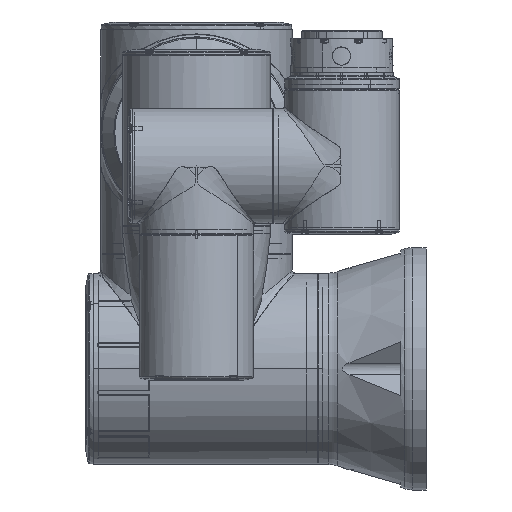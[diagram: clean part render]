
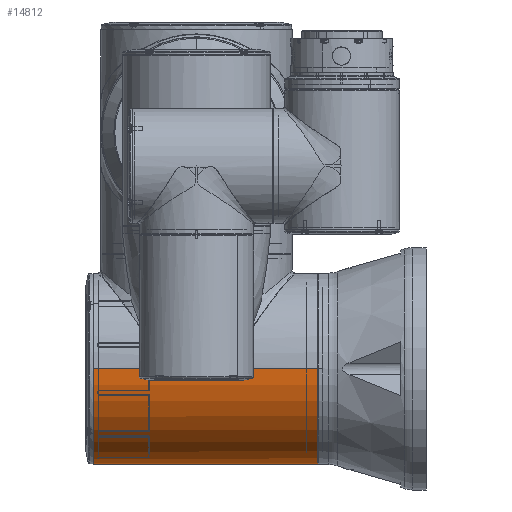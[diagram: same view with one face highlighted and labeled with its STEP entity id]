
A CAD part, left-side view. The second image highlights one B-rep face of the part: STEP entity #14812.
In plain terms, the highlighted cylindrical face has radius 75 mm (diameter 150 mm), a partial arc.
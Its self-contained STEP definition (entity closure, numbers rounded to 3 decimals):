
#824 = EDGE_CURVE ( 'NONE', #92564, #9737, #58804, .T. ) ;
#2642 = VECTOR ( 'NONE', #68037, 1000. ) ;
#3534 = CARTESIAN_POINT ( 'NONE',  ( -0.75, 55.9, 74.996 ) ) ;
#5095 = CARTESIAN_POINT ( 'NONE',  ( 75., -120., 0. ) ) ;
#6234 = CARTESIAN_POINT ( 'NONE',  ( 0.75, 52.649, 74.996 ) ) ;
#9319 = DIRECTION ( 'NONE',  ( 0., 1., 0. ) ) ;
#9537 = ORIENTED_EDGE ( 'NONE', *, *, #70646, .T. ) ;
#9737 = VERTEX_POINT ( 'NONE', #46086 ) ;
#13264 = VERTEX_POINT ( 'NONE', #3534 ) ;
#13957 = CARTESIAN_POINT ( 'NONE',  ( -75., -39., 0. ) ) ;
#14060 = CARTESIAN_POINT ( 'NONE',  ( 0.655, 52.371, 74.997 ) ) ;
#14812 = ADVANCED_FACE ( 'NONE', ( #24502 ), #71904, .T. ) ;
#15790 = ORIENTED_EDGE ( 'NONE', *, *, #20952, .T. ) ;
#16301 = CARTESIAN_POINT ( 'NONE',  ( -0.379, 52.095, 74.999 ) ) ;
#18171 = VECTOR ( 'NONE', #65611, 1000. ) ;
#18264 = CIRCLE ( 'NONE', #92276, 75. ) ;
#19200 = VERTEX_POINT ( 'NONE', #81148 ) ;
#19365 = CIRCLE ( 'NONE', #77875, 75. ) ;
#20288 = EDGE_CURVE ( 'NONE', #13264, #100925, #72900, .T. ) ;
#20931 = DIRECTION ( 'NONE',  ( 1., 0., 0. ) ) ;
#20952 = EDGE_CURVE ( 'NONE', #41797, #85383, #37617, .T. ) ;
#20969 = LINE ( 'NONE', #5095, #90368 ) ;
#21540 = CARTESIAN_POINT ( 'NONE',  ( 0., 52., 75. ) ) ;
#21871 = CARTESIAN_POINT ( 'NONE',  ( 0.195, 52.019, 75. ) ) ;
#22190 = EDGE_CURVE ( 'NONE', #92564, #37421, #78035, .T. ) ;
#22926 = ORIENTED_EDGE ( 'NONE', *, *, #824, .F. ) ;
#23127 = CARTESIAN_POINT ( 'NONE',  ( -0.195, 52.019, 75. ) ) ;
#24502 = FACE_OUTER_BOUND ( 'NONE', #39895, .T. ) ;
#26332 = DIRECTION ( 'NONE',  ( 0., -1., 0. ) ) ;
#26744 = ORIENTED_EDGE ( 'NONE', *, *, #97505, .F. ) ;
#29258 = VERTEX_POINT ( 'NONE', #13957 ) ;
#30366 = CARTESIAN_POINT ( 'NONE',  ( 0.731, 52.555, 74.996 ) ) ;
#31174 = VERTEX_POINT ( 'NONE', #76213 ) ;
#33457 = DIRECTION ( 'NONE',  ( 0., 0., 1. ) ) ;
#35940 = B_SPLINE_CURVE_WITH_KNOTS ( 'NONE', 3,
 ( #83667, #63216, #23127, #16301, #94206, #47568, #63545, #69696, #62546, #78180 ),
 .UNSPECIFIED., .F., .F.,
 ( 4, 2, 2, 2, 4 ),
 ( 0., 0.25, 0.5, 0.75, 1. ),
 .UNSPECIFIED. ) ;
#36731 = CARTESIAN_POINT ( 'NONE',  ( 75., -120., 0. ) ) ;
#37421 = VERTEX_POINT ( 'NONE', #56134 ) ;
#37617 = LINE ( 'NONE', #36731, #18171 ) ;
#39895 = EDGE_LOOP ( 'NONE', ( #76407, #41582, #9537, #15790, #73732, #22926, #59816, #74764, #55164, #26744, #91157 ) ) ;
#41582 = ORIENTED_EDGE ( 'NONE', *, *, #62773, .T. ) ;
#41797 = VERTEX_POINT ( 'NONE', #100451 ) ;
#42438 = LINE ( 'NONE', #48450, #57061 ) ;
#42834 = DIRECTION ( 'NONE',  ( 0., 1., 0. ) ) ;
#44059 = CARTESIAN_POINT ( 'NONE',  ( 0., -120., 0. ) ) ;
#44157 = CARTESIAN_POINT ( 'NONE',  ( 75., 55.9, 0. ) ) ;
#46086 = CARTESIAN_POINT ( 'NONE',  ( 0.75, 55.9, 74.996 ) ) ;
#47387 = CARTESIAN_POINT ( 'NONE',  ( 0., 55.9, 0. ) ) ;
#47568 = CARTESIAN_POINT ( 'NONE',  ( -0.599, 52.289, 74.998 ) ) ;
#47856 = VECTOR ( 'NONE', #54310, 1000. ) ;
#48450 = CARTESIAN_POINT ( 'NONE',  ( -75., -120., 0. ) ) ;
#48761 = CARTESIAN_POINT ( 'NONE',  ( 0., 55.9, 0. ) ) ;
#50079 = LINE ( 'NONE', #82671, #2642 ) ;
#52798 = CARTESIAN_POINT ( 'NONE',  ( 0.6, 52.289, 74.998 ) ) ;
#54310 = DIRECTION ( 'NONE',  ( 0., 1., 0. ) ) ;
#55048 = EDGE_CURVE ( 'NONE', #37421, #100925, #35940, .T. ) ;
#55164 = ORIENTED_EDGE ( 'NONE', *, *, #20288, .F. ) ;
#55440 = CARTESIAN_POINT ( 'NONE',  ( 75., -119.6, 0. ) ) ;
#55924 = DIRECTION ( 'NONE',  ( 0., 1., 0. ) ) ;
#56134 = CARTESIAN_POINT ( 'NONE',  ( 0., 52., 75. ) ) ;
#56218 = DIRECTION ( 'NONE',  ( 0., 0., 1. ) ) ;
#57061 = VECTOR ( 'NONE', #64098, 1000. ) ;
#58796 = EDGE_CURVE ( 'NONE', #9737, #85383, #19365, .T. ) ;
#58804 = LINE ( 'NONE', #76113, #47856 ) ;
#59270 = CIRCLE ( 'NONE', #79981, 75. ) ;
#59816 = ORIENTED_EDGE ( 'NONE', *, *, #22190, .T. ) ;
#60299 = CARTESIAN_POINT ( 'NONE',  ( 0.099, 52., 75. ) ) ;
#60731 = CARTESIAN_POINT ( 'NONE',  ( 0.75, 52.75, 74.996 ) ) ;
#61328 = VERTEX_POINT ( 'NONE', #55440 ) ;
#61641 = CARTESIAN_POINT ( 'NONE',  ( 0.461, 52.15, 74.999 ) ) ;
#62546 = CARTESIAN_POINT ( 'NONE',  ( -0.75, 52.65, 74.996 ) ) ;
#62773 = EDGE_CURVE ( 'NONE', #19200, #61328, #59270, .T. ) ;
#63153 = VECTOR ( 'NONE', #26332, 1000. ) ;
#63216 = CARTESIAN_POINT ( 'NONE',  ( -0.099, 52., 75. ) ) ;
#63545 = CARTESIAN_POINT ( 'NONE',  ( -0.654, 52.37, 74.997 ) ) ;
#64098 = DIRECTION ( 'NONE',  ( 0., 1., 0. ) ) ;
#64845 = AXIS2_PLACEMENT_3D ( 'NONE', #44059, #98821, #20931 ) ;
#65611 = DIRECTION ( 'NONE',  ( 0., 1., 0. ) ) ;
#66071 = CARTESIAN_POINT ( 'NONE',  ( -0.75, -120., 74.996 ) ) ;
#68037 = DIRECTION ( 'NONE',  ( 0., 1., 0. ) ) ;
#68528 = DIRECTION ( 'NONE',  ( -1., 0., 0. ) ) ;
#69696 = CARTESIAN_POINT ( 'NONE',  ( -0.73, 52.554, 74.996 ) ) ;
#70646 = EDGE_CURVE ( 'NONE', #61328, #41797, #20969, .T. ) ;
#71904 = CYLINDRICAL_SURFACE ( 'NONE', #64845, 75. ) ;
#72900 = LINE ( 'NONE', #66071, #63153 ) ;
#73732 = ORIENTED_EDGE ( 'NONE', *, *, #58796, .F. ) ;
#74764 = ORIENTED_EDGE ( 'NONE', *, *, #55048, .T. ) ;
#75733 = EDGE_CURVE ( 'NONE', #19200, #29258, #42438, .T. ) ;
#76113 = CARTESIAN_POINT ( 'NONE',  ( 0.75, -120., 74.996 ) ) ;
#76213 = CARTESIAN_POINT ( 'NONE',  ( -75., 55.9, 0. ) ) ;
#76407 = ORIENTED_EDGE ( 'NONE', *, *, #75733, .F. ) ;
#77875 = AXIS2_PLACEMENT_3D ( 'NONE', #47387, #9319, #56218 ) ;
#78035 = B_SPLINE_CURVE_WITH_KNOTS ( 'NONE', 3,
 ( #99772, #6234, #30366, #14060, #52798, #61641, #91271, #21871, #60299, #21540 ),
 .UNSPECIFIED., .F., .F.,
 ( 4, 2, 2, 2, 4 ),
 ( 0., 0.25, 0.5, 0.75, 1. ),
 .UNSPECIFIED. ) ;
#78180 = CARTESIAN_POINT ( 'NONE',  ( -0.75, 52.75, 74.996 ) ) ;
#79981 = AXIS2_PLACEMENT_3D ( 'NONE', #81769, #99527, #68528 ) ;
#81148 = CARTESIAN_POINT ( 'NONE',  ( -75., -119.6, 0. ) ) ;
#81769 = CARTESIAN_POINT ( 'NONE',  ( 0., -119.6, 0. ) ) ;
#82671 = CARTESIAN_POINT ( 'NONE',  ( -75., -120., 0. ) ) ;
#83667 = CARTESIAN_POINT ( 'NONE',  ( 0., 52., 75. ) ) ;
#84174 = CARTESIAN_POINT ( 'NONE',  ( -0.75, 52.75, 74.996 ) ) ;
#85383 = VERTEX_POINT ( 'NONE', #44157 ) ;
#90368 = VECTOR ( 'NONE', #42834, 1000. ) ;
#91157 = ORIENTED_EDGE ( 'NONE', *, *, #95217, .F. ) ;
#91271 = CARTESIAN_POINT ( 'NONE',  ( 0.381, 52.097, 74.999 ) ) ;
#92276 = AXIS2_PLACEMENT_3D ( 'NONE', #48761, #55924, #33457 ) ;
#92564 = VERTEX_POINT ( 'NONE', #60731 ) ;
#94206 = CARTESIAN_POINT ( 'NONE',  ( -0.461, 52.15, 74.999 ) ) ;
#95217 = EDGE_CURVE ( 'NONE', #29258, #31174, #50079, .T. ) ;
#97505 = EDGE_CURVE ( 'NONE', #31174, #13264, #18264, .T. ) ;
#98821 = DIRECTION ( 'NONE',  ( 0., 1., 0. ) ) ;
#99527 = DIRECTION ( 'NONE',  ( 0., 1., 0. ) ) ;
#99772 = CARTESIAN_POINT ( 'NONE',  ( 0.75, 52.75, 74.996 ) ) ;
#100451 = CARTESIAN_POINT ( 'NONE',  ( 75., -39., 0. ) ) ;
#100925 = VERTEX_POINT ( 'NONE', #84174 ) ;
